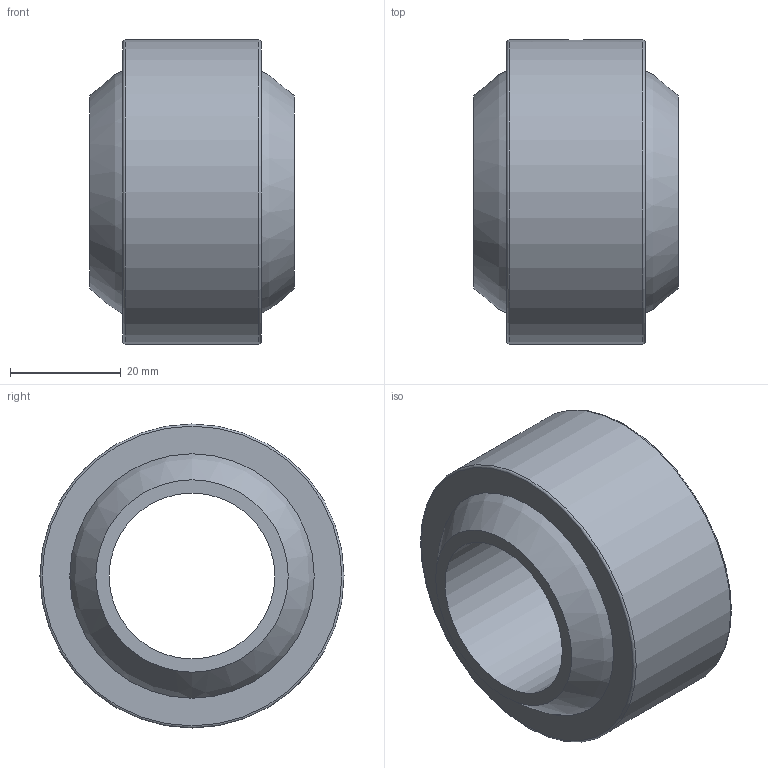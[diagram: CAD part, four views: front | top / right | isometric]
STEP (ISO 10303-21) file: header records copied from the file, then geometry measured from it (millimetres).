
FILE_DESCRIPTION( ( 'STEP AP203' ), '1' );
FILE_NAME( 'C:/Temp/Ganter_Step_05_03_2020/data/3_6/gn_648_8/gn_648_8_n/Ball joint GN 648.8-30-55-N.stp', '2020-03-12T14:14:27', ( 'License CC BY-ND 4.0' ), ( 'CADENAS' ), ' ', 'PARTsolutions', ' ' );
FILE_SCHEMA( ( 'CONFIG_CONTROL_DESIGN' ) );
Length unit declared in the file: millimetre
Products named in the file (3): Ball joint GN 648.8-30-55-N; _Ball joint GN 648.8-30-55-N-2; _Ball joint GN 648.8-30-55-N-1
Assembly tree (2 placements, depth 2):
  Ball joint GN 648.8-30-55-N
    _Ball joint GN 648.8-30-55-N-2
    _Ball joint GN 648.8-30-55-N-1
Bounding box: 37 x 55 x 55 mm (x, y, z)
Volume: 48370.5 mm3; surface area: 19818.1 mm2
Topology: 2 solids, 2 shells, 11 faces, 20 edges, 13 vertices
Faces by surface type: plane 4, cylinder 3, sphere 2, torus 2
Full cylindrical faces by diameter (mm): 2.6 x1, 30 x1, 55 x1
Entity records: 394 total; most frequent: CARTESIAN_POINT 81, DIRECTION 50, AXIS2_PLACEMENT_3D 25, EDGE_LOOP 24, ORIENTED_EDGE 24, FACE_OUTER_BOUND 18, CC_DESIGN_PERSON_AND_ORGANIZATION_ASSIGNMENT 13, EDGE_CURVE 12
